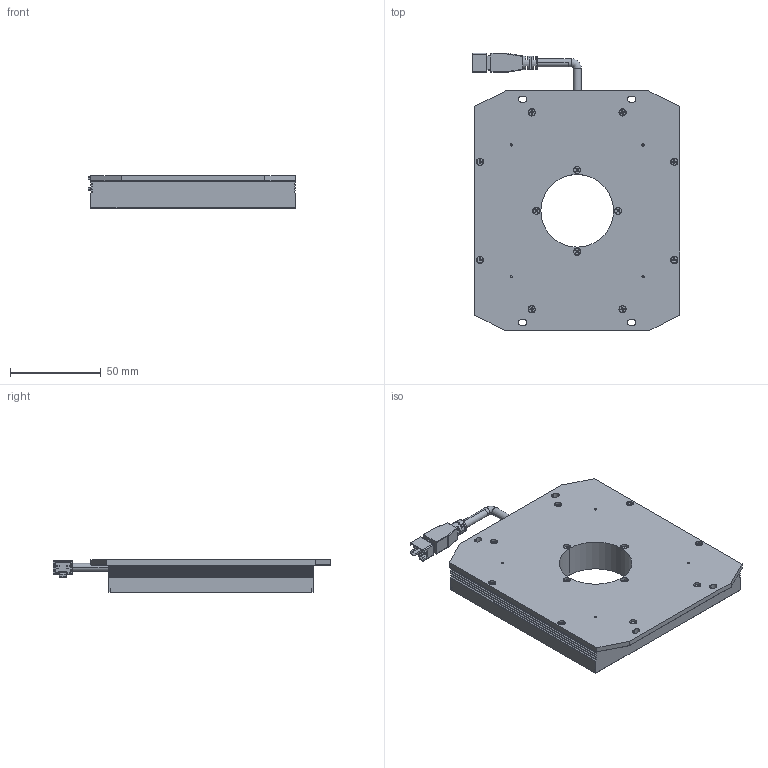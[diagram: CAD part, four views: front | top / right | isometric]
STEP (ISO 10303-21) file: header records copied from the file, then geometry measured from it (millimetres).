
FILE_DESCRIPTION((''),'2;1');
FILE_NAME('LS-LBES-H-100-100-X2','2022-11-04T11:26:18',('LumaSpec Vision'),('LumaSpec Vision'),'CREO PARAMETRIC BY PTC INC, 2020044','CREO PARAMETRIC BY PTC INC, 2020044','');
FILE_SCHEMA(('AUTOMOTIVE_DESIGN { 1 0 10303 214 1 1 1 1 }'));
Length unit declared in the file: millimetre
Products named in the file (1): PRT0001
Bounding box: 114.3 x 152.75 x 18 mm (x, y, z)
Volume: 214218.5 mm3; surface area: 41803.2 mm2
Topology: 1 solids, 18 shells, 1165 faces, 2923 edges, 1834 vertices
Faces by surface type: plane 713, cylinder 323, cone 79, torus 34, sphere 8, bspline 8
Entity records: 36020 total; most frequent: CARTESIAN_POINT 7074, ORIENTED_EDGE 5830, DIRECTION 5771, EDGE_CURVE 2915, AXIS2_PLACEMENT_3D 1959, VECTOR 1853, LINE 1853, VERTEX_POINT 1834
